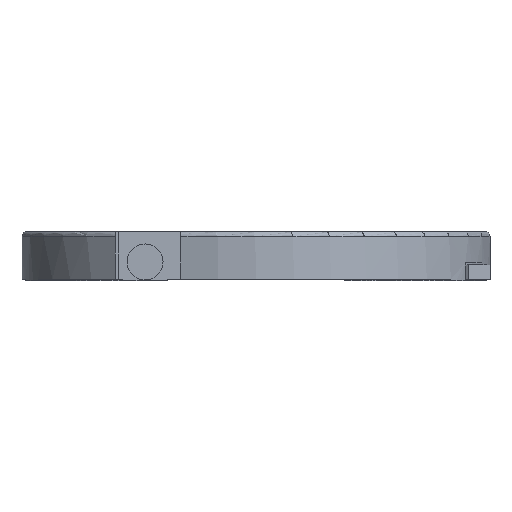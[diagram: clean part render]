
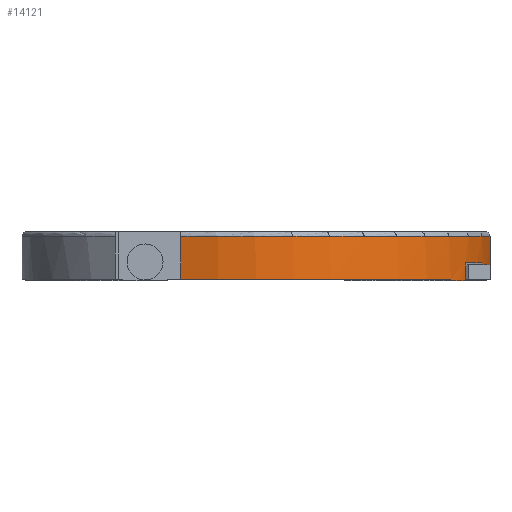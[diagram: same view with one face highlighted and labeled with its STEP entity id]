
A CAD part, left-side view. The second image highlights one B-rep face of the part: STEP entity #14121.
In plain terms, the highlighted cylindrical face has radius 25 mm (diameter 50 mm), a partial arc.
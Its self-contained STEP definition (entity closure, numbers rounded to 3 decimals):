
#302=CYLINDRICAL_SURFACE('',#14823,25.);
#524=CIRCLE('',#14824,25.);
#525=CIRCLE('',#14825,25.);
#526=CIRCLE('',#14826,25.);
#527=CIRCLE('',#14827,25.);
#528=CIRCLE('',#14828,25.);
#1250=ORIENTED_EDGE('',*,*,#4276,.T.);
#1251=ORIENTED_EDGE('',*,*,#4277,.F.);
#1252=ORIENTED_EDGE('',*,*,#4278,.F.);
#1253=ORIENTED_EDGE('',*,*,#4138,.T.);
#1254=ORIENTED_EDGE('',*,*,#4279,.F.);
#1255=ORIENTED_EDGE('',*,*,#4280,.T.);
#1256=ORIENTED_EDGE('',*,*,#4281,.F.);
#1257=ORIENTED_EDGE('',*,*,#4282,.F.);
#1258=ORIENTED_EDGE('',*,*,#4283,.F.);
#1259=ORIENTED_EDGE('',*,*,#4284,.T.);
#4138=EDGE_CURVE('',#5673,#5672,#6586,.T.);
#4276=EDGE_CURVE('',#5783,#5784,#524,.T.);
#4277=EDGE_CURVE('',#5785,#5784,#6659,.T.);
#4278=EDGE_CURVE('',#5673,#5785,#525,.T.);
#4279=EDGE_CURVE('',#5786,#5672,#526,.T.);
#4280=EDGE_CURVE('',#5786,#5787,#6660,.T.);
#4281=EDGE_CURVE('',#5788,#5787,#527,.T.);
#4282=EDGE_CURVE('',#5789,#5788,#6661,.F.);
#4283=EDGE_CURVE('',#5790,#5789,#528,.T.);
#4284=EDGE_CURVE('',#5790,#5783,#6662,.T.);
#5672=VERTEX_POINT('',#19698);
#5673=VERTEX_POINT('',#19700);
#5783=VERTEX_POINT('',#20031);
#5784=VERTEX_POINT('',#20032);
#5785=VERTEX_POINT('',#20034);
#5786=VERTEX_POINT('',#20037);
#5787=VERTEX_POINT('',#20039);
#5788=VERTEX_POINT('',#20041);
#5789=VERTEX_POINT('',#20043);
#5790=VERTEX_POINT('',#20045);
#6586=LINE('',#19699,#7592);
#6659=LINE('',#20033,#7665);
#6660=LINE('',#20038,#7666);
#6661=LINE('',#20042,#7667);
#6662=LINE('',#20046,#7668);
#7592=VECTOR('',#15861,1000.);
#7665=VECTOR('',#16110,1000.);
#7666=VECTOR('',#16115,1000.);
#7667=VECTOR('',#16118,1000.);
#7668=VECTOR('',#16121,1000.);
#8557=EDGE_LOOP('',(#1250,#1251,#1252,#1253,#1254,#1255,#1256,#1257,#1258,
#1259));
#9181=FACE_BOUND('',#8557,.T.);
#14121=ADVANCED_FACE('',(#9181),#302,.T.);
#14823=AXIS2_PLACEMENT_3D('',#20029,#16106,#16107);
#14824=AXIS2_PLACEMENT_3D('',#20030,#16108,#16109);
#14825=AXIS2_PLACEMENT_3D('',#20035,#16111,#16112);
#14826=AXIS2_PLACEMENT_3D('',#20036,#16113,#16114);
#14827=AXIS2_PLACEMENT_3D('',#20040,#16116,#16117);
#14828=AXIS2_PLACEMENT_3D('',#20044,#16119,#16120);
#15861=DIRECTION('',(0.,0.,1.));
#16106=DIRECTION('',(0.,0.,1.));
#16107=DIRECTION('',(1.,0.,0.));
#16108=DIRECTION('',(0.,0.,1.));
#16109=DIRECTION('',(1.,0.,0.));
#16110=DIRECTION('',(0.,0.,1.));
#16111=DIRECTION('',(0.,0.,-1.));
#16112=DIRECTION('',(-0.301,0.954,0.));
#16113=DIRECTION('',(0.,0.,-1.));
#16114=DIRECTION('',(0.131,0.991,0.));
#16115=DIRECTION('',(0.,0.,-1.));
#16116=DIRECTION('',(0.,0.,-1.));
#16117=DIRECTION('',(0.131,0.991,0.));
#16118=DIRECTION('',(0.,0.,1.));
#16119=DIRECTION('',(0.,0.,1.));
#16120=DIRECTION('',(1.,0.,0.));
#16121=DIRECTION('',(0.,0.,-1.));
#19698=CARTESIAN_POINT('',(-11.544,-22.175,1.75));
#19699=CARTESIAN_POINT('',(-11.544,-22.175,-69.707));
#19700=CARTESIAN_POINT('',(-11.544,-22.175,-0.15));
#20029=CARTESIAN_POINT('',(0.,0.,22.5));
#20030=CARTESIAN_POINT('',(0.,0.,0.));
#20031=CARTESIAN_POINT('',(-23.7,7.957,0.));
#20032=CARTESIAN_POINT('',(-14.117,-20.633,0.));
#20033=CARTESIAN_POINT('',(-14.117,-20.633,-0.15));
#20034=CARTESIAN_POINT('',(-14.117,-20.633,-0.15));
#20035=CARTESIAN_POINT('',(0.,0.,-0.15));
#20036=CARTESIAN_POINT('',(0.,0.,1.75));
#20037=CARTESIAN_POINT('',(-7.309,-23.908,1.75));
#20038=CARTESIAN_POINT('',(-7.309,-23.908,1.75));
#20039=CARTESIAN_POINT('',(-7.309,-23.908,1.55));
#20040=CARTESIAN_POINT('',(0.,0.,1.55));
#20041=CARTESIAN_POINT('',(-3.263,-24.786,1.55));
#20042=CARTESIAN_POINT('',(-3.263,-24.786,22.5));
#20043=CARTESIAN_POINT('',(-3.263,-24.786,4.55));
#20044=CARTESIAN_POINT('',(0.,0.,4.55));
#20045=CARTESIAN_POINT('',(-23.7,7.957,4.55));
#20046=CARTESIAN_POINT('',(-23.7,7.957,5.05));
